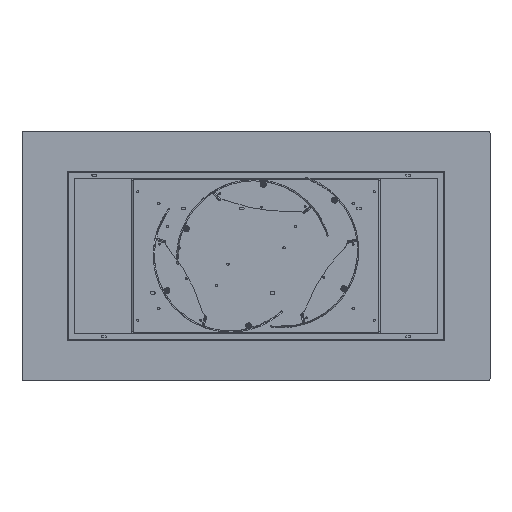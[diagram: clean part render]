
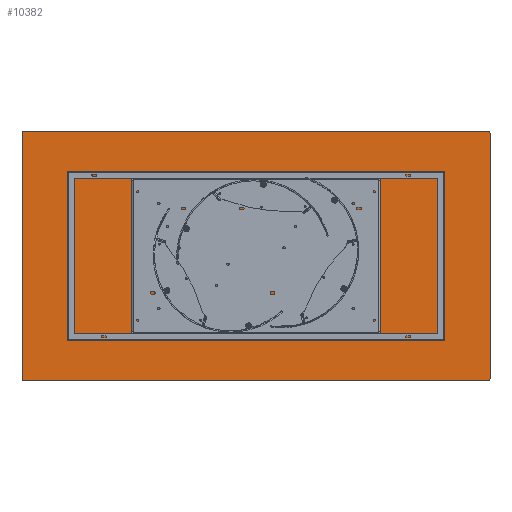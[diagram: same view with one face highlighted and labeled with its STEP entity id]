
A CAD part, front view. The second image highlights one B-rep face of the part: STEP entity #10382.
In plain terms, the highlighted planar face has unit normal (0, -1, 0).
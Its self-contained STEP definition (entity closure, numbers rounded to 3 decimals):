
#134 = EDGE_CURVE ( 'NONE', #4960, #3151, #17432, .T. ) ;
#307 = CIRCLE ( 'NONE', #5508, 5. ) ;
#404 = CARTESIAN_POINT ( 'NONE',  ( -995., 0., 525. ) ) ;
#405 = LINE ( 'NONE', #13518, #3253 ) ;
#517 = DIRECTION ( 'NONE',  ( 0., -1., 0. ) ) ;
#1039 = AXIS2_PLACEMENT_3D ( 'NONE', #4200, #2039, #8651 ) ;
#1542 = DIRECTION ( 'NONE',  ( 0., 0., 1. ) ) ;
#2039 = DIRECTION ( 'NONE',  ( 0., 1., 0. ) ) ;
#2271 = VERTEX_POINT ( 'NONE', #7735 ) ;
#3068 = VERTEX_POINT ( 'NONE', #9723 ) ;
#3120 = EDGE_CURVE ( 'NONE', #19767, #3151, #13491, .T. ) ;
#3151 = VERTEX_POINT ( 'NONE', #11748 ) ;
#3170 = EDGE_CURVE ( 'NONE', #21330, #20346, #307, .T. ) ;
#3253 = VECTOR ( 'NONE', #20219, 1000. ) ;
#3417 = CIRCLE ( 'NONE', #11376, 5. ) ;
#3593 = ORIENTED_EDGE ( 'NONE', *, *, #15492, .F. ) ;
#3881 = DIRECTION ( 'NONE',  ( 0., 0., 1. ) ) ;
#3968 = LINE ( 'NONE', #17144, #15453 ) ;
#4039 = ORIENTED_EDGE ( 'NONE', *, *, #134, .T. ) ;
#4090 = DIRECTION ( 'NONE',  ( 0., 0., 1. ) ) ;
#4200 = CARTESIAN_POINT ( 'NONE',  ( 0., 0., 0. ) ) ;
#4743 = ORIENTED_EDGE ( 'NONE', *, *, #3120, .F. ) ;
#4960 = VERTEX_POINT ( 'NONE', #9594 ) ;
#5047 = DIRECTION ( 'NONE',  ( 0., -1., 0. ) ) ;
#5508 = AXIS2_PLACEMENT_3D ( 'NONE', #15005, #5047, #19875 ) ;
#5647 = DIRECTION ( 'NONE',  ( 0., 0., 1. ) ) ;
#5887 = CIRCLE ( 'NONE', #17979, 5. ) ;
#6263 = ORIENTED_EDGE ( 'NONE', *, *, #3170, .T. ) ;
#6567 = CARTESIAN_POINT ( 'NONE',  ( 1000., 0., -530. ) ) ;
#6735 = EDGE_CURVE ( 'NONE', #3068, #16890, #3968, .T. ) ;
#6903 = ORIENTED_EDGE ( 'NONE', *, *, #8884, .T. ) ;
#7735 = CARTESIAN_POINT ( 'NONE',  ( -1000., 0., 525. ) ) ;
#8140 = CARTESIAN_POINT ( 'NONE',  ( 995., 0., 530. ) ) ;
#8651 = DIRECTION ( 'NONE',  ( 0., 0., 1. ) ) ;
#8878 = ORIENTED_EDGE ( 'NONE', *, *, #10351, .F. ) ;
#8884 = EDGE_CURVE ( 'NONE', #19767, #16890, #3417, .T. ) ;
#8944 = DIRECTION ( 'NONE',  ( 1., 0., 0. ) ) ;
#8967 = LINE ( 'NONE', #12308, #19704 ) ;
#9594 = CARTESIAN_POINT ( 'NONE',  ( 995., 0., -530. ) ) ;
#9723 = CARTESIAN_POINT ( 'NONE',  ( -995., 0., 530. ) ) ;
#10343 = EDGE_CURVE ( 'NONE', #3068, #2271, #5887, .T. ) ;
#10351 = EDGE_CURVE ( 'NONE', #21330, #2271, #8967, .T. ) ;
#10382 = ADVANCED_FACE ( 'NONE', ( #20217 ), #12412, .F. ) ;
#10541 = ORIENTED_EDGE ( 'NONE', *, *, #10343, .T. ) ;
#10547 = AXIS2_PLACEMENT_3D ( 'NONE', #18302, #13876, #5647 ) ;
#11376 = AXIS2_PLACEMENT_3D ( 'NONE', #15064, #18407, #1542 ) ;
#11748 = CARTESIAN_POINT ( 'NONE',  ( 1000., 0., -525. ) ) ;
#12308 = CARTESIAN_POINT ( 'NONE',  ( -1000., 0., -530. ) ) ;
#12412 = PLANE ( 'NONE',  #1039 ) ;
#13491 = LINE ( 'NONE', #6567, #20025 ) ;
#13518 = CARTESIAN_POINT ( 'NONE',  ( -1000., 0., -530. ) ) ;
#13876 = DIRECTION ( 'NONE',  ( 0., -1., 0. ) ) ;
#15005 = CARTESIAN_POINT ( 'NONE',  ( -995., 0., -525. ) ) ;
#15064 = CARTESIAN_POINT ( 'NONE',  ( 995., 0., 525. ) ) ;
#15453 = VECTOR ( 'NONE', #8944, 1000. ) ;
#15492 = EDGE_CURVE ( 'NONE', #4960, #20346, #405, .T. ) ;
#16281 = CARTESIAN_POINT ( 'NONE',  ( 1000., 0., 525. ) ) ;
#16890 = VERTEX_POINT ( 'NONE', #8140 ) ;
#17144 = CARTESIAN_POINT ( 'NONE',  ( -1000., 0., 530. ) ) ;
#17320 = CARTESIAN_POINT ( 'NONE',  ( -1000., 0., -525. ) ) ;
#17422 = EDGE_LOOP ( 'NONE', ( #4743, #6903, #21148, #10541, #8878, #6263, #3593, #4039 ) ) ;
#17432 = CIRCLE ( 'NONE', #10547, 5. ) ;
#17979 = AXIS2_PLACEMENT_3D ( 'NONE', #404, #517, #3881 ) ;
#18302 = CARTESIAN_POINT ( 'NONE',  ( 995., 0., -525. ) ) ;
#18407 = DIRECTION ( 'NONE',  ( 0., -1., 0. ) ) ;
#19704 = VECTOR ( 'NONE', #4090, 1000. ) ;
#19767 = VERTEX_POINT ( 'NONE', #16281 ) ;
#19875 = DIRECTION ( 'NONE',  ( 0., 0., 1. ) ) ;
#19973 = DIRECTION ( 'NONE',  ( 0., 0., -1. ) ) ;
#20025 = VECTOR ( 'NONE', #19973, 1000. ) ;
#20217 = FACE_OUTER_BOUND ( 'NONE', #17422, .T. ) ;
#20219 = DIRECTION ( 'NONE',  ( -1., 0., 0. ) ) ;
#20346 = VERTEX_POINT ( 'NONE', #21111 ) ;
#21111 = CARTESIAN_POINT ( 'NONE',  ( -995., 0., -530. ) ) ;
#21148 = ORIENTED_EDGE ( 'NONE', *, *, #6735, .F. ) ;
#21330 = VERTEX_POINT ( 'NONE', #17320 ) ;
